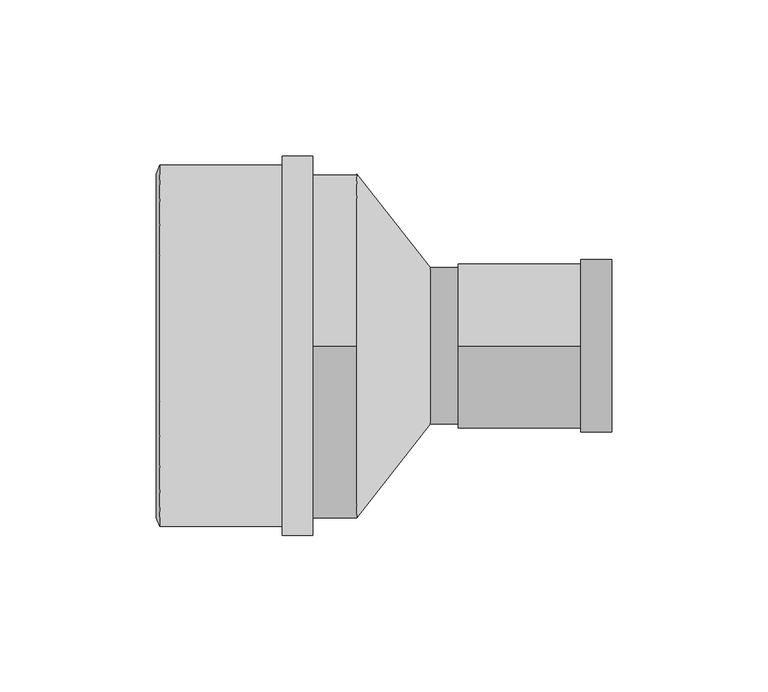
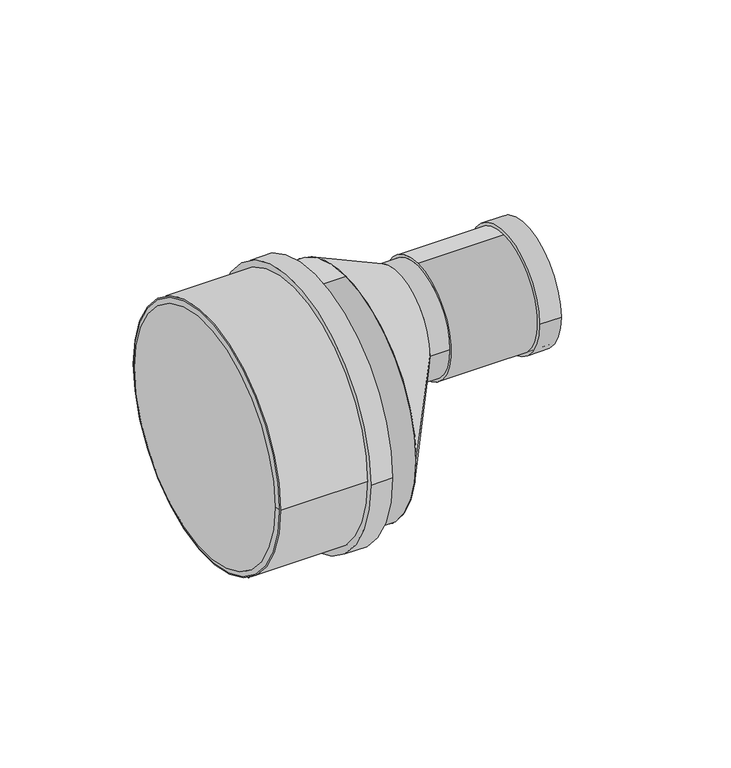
"""IFC4 building model written with IfcOpenShell, lengths in millimetres: pipe fitting geometry, Superdrain HTR-Reducer : Superdrain HTR-Reducer."""

from ifc_helpers import new_model, si_unit, point, frame, frame_2d, origin, origin_2d, place, context, project, spatial, polyline, circle_curve, trimmed, segment, composite_curve, outline, extrude, source, transform, mapped, element, save
from ifc_brep_helpers import plane_surface, revolved_surface, spline_surface, advanced_brep


def pipe_fitting_d945f117(model_context):
    return source(origin(), model_context, "Body", "SolidModel", [
        extrude(outline(composite_curve([segment(trimmed(circle_curve(frame_2d((0.0, 0.1450234)), 57.75), [point((57.75, 0.1450234))], [point((-57.75, 0.1450234))], False, "CARTESIAN"), True, "CONTINUOUS"), segment(trimmed(circle_curve(frame_2d((0.0, 0.1450234)), 57.75), [point((-57.75, 0.1450234))], [point((57.75, 0.1450234))], False, "CARTESIAN"), True, "CONTINUOUS")], self_intersect=False), holes=[composite_curve([segment(trimmed(circle_curve(frame_2d((0.0, 0.1450234)), 55.0), [point((55.0, 0.1450234))], [point((-55.0, 0.1450234))], True, "CARTESIAN"), True, "CONTINUOUS"), segment(trimmed(circle_curve(frame_2d((0.0, 0.1450234)), 55.0), [point((-55.0, 0.1450234))], [point((55.0, 0.1450234))], True, "CARTESIAN"), True, "CONTINUOUS")], self_intersect=False)]), frame((-63.0, 0.0, 0.0), z_axis=(1.0, 0.0, 0.0), x_axis=(0.0, 1.0, 0.0)), (0.0, 0.0, 1.0), 49.0),
        extrude(outline(composite_curve([segment(trimmed(circle_curve(frame_2d((0.0, 0.1450234)), 60.6375), [point((60.6375, 0.1450234))], [point((-60.6375, 0.1450234))], False, "CARTESIAN"), True, "CONTINUOUS"), segment(trimmed(circle_curve(frame_2d((0.0, 0.1450234)), 60.6375), [point((-60.6375, 0.1450234))], [point((60.6375, 0.1450234))], False, "CARTESIAN"), True, "CONTINUOUS")], self_intersect=False), holes=[composite_curve([segment(trimmed(circle_curve(frame_2d((0.0, 0.1450234)), 55.0), [point((55.0, 0.1450234))], [point((-55.0, 0.1450234))], True, "CARTESIAN"), True, "CONTINUOUS"), segment(trimmed(circle_curve(frame_2d((0.0, 0.1450234)), 55.0), [point((-55.0, 0.1450234))], [point((55.0, 0.1450234))], True, "CARTESIAN"), True, "CONTINUOUS")], self_intersect=False)]), frame((-23.8, 0.0, 0.0), z_axis=(1.0, 0.0, 0.0), x_axis=(0.0, 1.0, 0.0)), (0.0, 0.0, 1.0), 9.8),
        advanced_brep(
        [(-64.0, 55.0, 0.1450234), (-64.0, -55.0, 0.1450234), (-63.0, 57.75, 0.1450234), (-63.0, -57.75, 0.1450234)],
        [
            (0, 1, circle_curve(frame((-64.0, 0.0, 0.1450234), z_axis=(-1.0, 0.0, 0.0), x_axis=(0.0, 1.0000000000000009, 0.0)), 55.0)),
            (1, 0, circle_curve(frame((-64.0, 0.0, 0.1450234), z_axis=(-1.0, 0.0, 0.0), x_axis=(0.0, -1.0000000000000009, 0.0)), 55.0)),
            (2, 3, circle_curve(frame((-63.0, 0.0, 0.1450234), z_axis=(1.0, 0.0, 0.0), x_axis=(0.0, -1.0000000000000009, 0.0)), 57.75)),
            (3, 2, circle_curve(frame((-63.0, 0.0, 0.1450234), z_axis=(1.0, 0.0, 0.0), x_axis=(0.0, 1.0000000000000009, 0.0)), 57.75)),
            (3, 1),
            (0, 2),
        ],
        [
            plane_surface(frame((-64.0, 0.0, 0.1450234), z_axis=(-1.0, 0.0, 0.0), x_axis=(0.0, 0.0, -1.0))),
            plane_surface(frame((-63.0, 0.0, 0.1450234), z_axis=(1.0, 0.0, 0.0), x_axis=(0.0, 0.0, -1.0))),
            revolved_surface(polyline([(-64.0, 54.99999999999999, 0.1450234), (-63.0, 57.75, 0.1450234)]), (-84.0, 0.0, 0.1450234), (1.0000000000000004, 0.0, 0.0)),
            revolved_surface(polyline([(-64.0, -54.99999999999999, 0.1450234), (-63.0, -57.75, 0.1450234)]), (-84.0, 0.0, 0.1450234), (1.0000000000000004, 0.0, 0.0)),
        ],
        [
            (0, [[1, 2]]),
            (1, [[3, 4]]),
            (2, [[-4, 5, -1, 6]]),
            (3, [[-3, -6, -2, -5]]),
        ],
    ),
        advanced_brep(
        [(23.5, -25.0, 23.5), (23.5, 25.0, 23.5), (0.0, -55.0, 0.0), (0.0, 55.0, 0.0)],
        [
            (0, 1, circle_curve(frame((23.5, 0.0, 23.5), z_axis=(1.0, 0.0, 0.0), x_axis=(0.0, 1.0, 0.0)), 25.0)),
            (1, 0, circle_curve(frame((23.5, 0.0, 23.5), z_axis=(1.0, 0.0, 0.0), x_axis=(0.0, 1.0, 0.0)), 25.0)),
            (2, 3, circle_curve(frame((0.0, 0.0, 0.0), z_axis=(-1.0, 0.0, 0.0), x_axis=(0.0, 1.0, 0.0)), 55.0)),
            (3, 2, circle_curve(frame((0.0, 0.0, 0.0), z_axis=(-1.0, 0.0, 0.0), x_axis=(0.0, 1.0, 0.0)), 55.0)),
            (3, 1),
            (0, 2),
        ],
        [
            plane_surface(frame((23.5, 0.0, 23.5), z_axis=(1.0, 0.0, 0.0), x_axis=(0.0, 0.0, -1.0))),
            plane_surface(frame((0.0, 0.0, 0.0), z_axis=(-1.0, 0.0, 0.0), x_axis=(0.0, 0.0, -1.0))),
            spline_surface(2, 1, [[(0.0, -55.0, 0.0), (23.5, -25.0, 23.5)], [(0.0, -55.0, -55.0), (23.5, -25.0, -1.5)], [(0.0, 0.0, -55.0), (23.5, 0.0, -1.5)], [(0.0, 55.0, -55.0), (23.5, 25.0, -1.5)], [(0.0, 55.0, 0.0), (23.5, 25.0, 23.5)]], [3, 2, 3], [2, 2], [0.0, 1.0, 2.0], [0.0, 1.0], weights=[[1.0, 1.0], [0.7071067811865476, 0.7071067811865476], [1.0, 1.0], [0.7071067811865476, 0.7071067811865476], [1.0, 1.0]]),
            spline_surface(2, 1, [[(0.0, 55.0, 0.0), (23.5, 25.0, 23.5)], [(0.0, 55.0, 55.0), (23.5, 25.0, 48.5)], [(0.0, 0.0, 55.0), (23.5, 0.0, 48.5)], [(0.0, -55.0, 55.0), (23.5, -25.0, 48.5)], [(0.0, -55.0, 0.0), (23.5, -25.0, 23.5)]], [3, 2, 3], [2, 2], [0.0, 1.0, 2.0], [0.0, 1.0], weights=[[1.0, 1.0], [0.7071067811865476, 0.7071067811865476], [1.0, 1.0], [0.7071067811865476, 0.7071067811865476], [1.0, 1.0]]),
        ],
        [
            (0, [[1, 2]]),
            (1, [[3, 4]]),
            (2, [[-4, 5, -1, 6]]),
            (3, [[-3, -6, -2, -5]]),
        ],
    ),
        extrude(outline(composite_curve([segment(trimmed(circle_curve(frame_2d((0.0, 23.5)), 25.0), [point((-25.0, 23.5))], [point((25.0, 23.5))], False, "CARTESIAN"), True, "CONTINUOUS"), segment(trimmed(circle_curve(frame_2d((0.0, 23.5)), 25.0), [point((25.0, 23.5))], [point((-25.0, 23.5))], False, "CARTESIAN"), True, "CONTINUOUS")], self_intersect=False)), frame((23.5, 0.0, 0.0), z_axis=(1.0, 0.0, 0.0), x_axis=(0.0, 1.0, 0.0)), (0.0, 0.0, 1.0), 9.0),
        extrude(outline(composite_curve([segment(trimmed(circle_curve(frame_2d((0.0, 23.5)), 27.5625), [point((-27.5625, 23.5))], [point((27.5625, 23.5))], False, "CARTESIAN"), True, "CONTINUOUS"), segment(trimmed(circle_curve(frame_2d((0.0, 23.5)), 27.5625), [point((27.5625, 23.5))], [point((-27.5625, 23.5))], False, "CARTESIAN"), True, "CONTINUOUS")], self_intersect=False), holes=[composite_curve([segment(trimmed(circle_curve(frame_2d((0.0, 23.5)), 25.0), [point((25.0, 23.5))], [point((-25.0, 23.5))], True, "CARTESIAN"), True, "CONTINUOUS"), segment(trimmed(circle_curve(frame_2d((0.0, 23.5)), 25.0), [point((-25.0, 23.5))], [point((25.0, 23.5))], True, "CARTESIAN"), True, "CONTINUOUS")], self_intersect=False)]), frame((71.7, 0.0, 0.0), z_axis=(1.0, 0.0, 0.0), x_axis=(0.0, 1.0, 0.0)), (0.0, 0.0, 1.0), 9.8),
        extrude(outline(composite_curve([segment(trimmed(circle_curve(frame_2d((0.0, 23.5)), 26.25), [point((0.0, 49.75))], [point((0.0, -2.75))], False, "CARTESIAN"), True, "CONTINUOUS"), segment(trimmed(circle_curve(frame_2d((0.0, 23.5)), 26.25), [point((0.0, -2.75))], [point((0.0, 49.75))], False, "CARTESIAN"), True, "CONTINUOUS")], self_intersect=False), holes=[composite_curve([segment(trimmed(circle_curve(frame_2d((0.0, 23.5)), 25.0), [point((25.0, 23.5))], [point((-25.0, 23.5))], True, "CARTESIAN"), True, "CONTINUOUS"), segment(trimmed(circle_curve(frame_2d((0.0, 23.5)), 25.0), [point((-25.0, 23.5))], [point((25.0, 23.5))], True, "CARTESIAN"), True, "CONTINUOUS")], self_intersect=False)]), frame((32.5, 0.0, 0.0), z_axis=(1.0, 0.0, 0.0), x_axis=(0.0, 1.0, 0.0)), (0.0, 0.0, 1.0), 49.0),
        extrude(outline(composite_curve([segment(trimmed(circle_curve(origin_2d(), 55.0), [point((0.0, 55.0))], [point((0.0, -55.0))], False, "CARTESIAN"), True, "CONTINUOUS"), segment(trimmed(circle_curve(origin_2d(), 55.0), [point((0.0, -55.0))], [point((0.0, 55.0))], False, "CARTESIAN"), True, "CONTINUOUS")], self_intersect=False)), frame((-63.0, 0.0, 0.0), z_axis=(1.0, 0.0, 0.0), x_axis=(0.0, 1.0, 0.0)), (0.0, 0.0, 1.0), 63.0),
    ])


if __name__ == "__main__":
    model = new_model("IFC4")
    model_context = context("Model", 3, world=origin())
    ifc_project = project(units=[si_unit("LENGTHUNIT", "METRE", prefix="MILLI")], contexts=[model_context])
    site = spatial("IfcSite", under=ifc_project)
    building = spatial("IfcBuilding", under=site)
    placement = place(None, origin())
    pipe_fitting_shape = pipe_fitting_d945f117(model_context)
    element("IfcPipeFitting", 1, ObjectType="Superdrain HTR-Reducer : Superdrain HTR-Reducer", at=placement, inside=building, context=model_context, shape_type="MappedRepresentation", body=[
        mapped(pipe_fitting_shape, transform((0.0, 0.0, 0.0), x_axis=(1.0, 0.0, 0.0), y_axis=(0.0, 1.0, 0.0), z_axis=(0.0, 0.0, 1.0))),
    ])
    save(model, "model.ifc")
